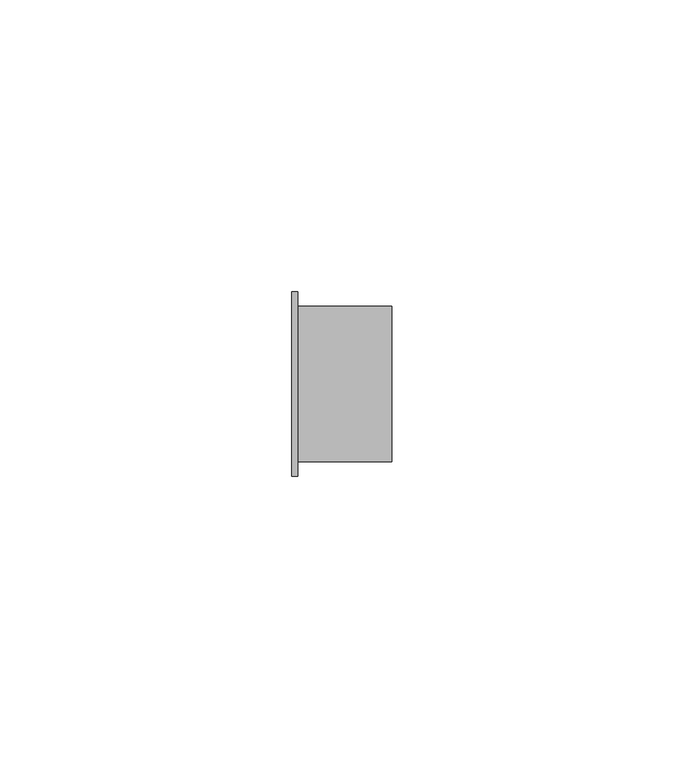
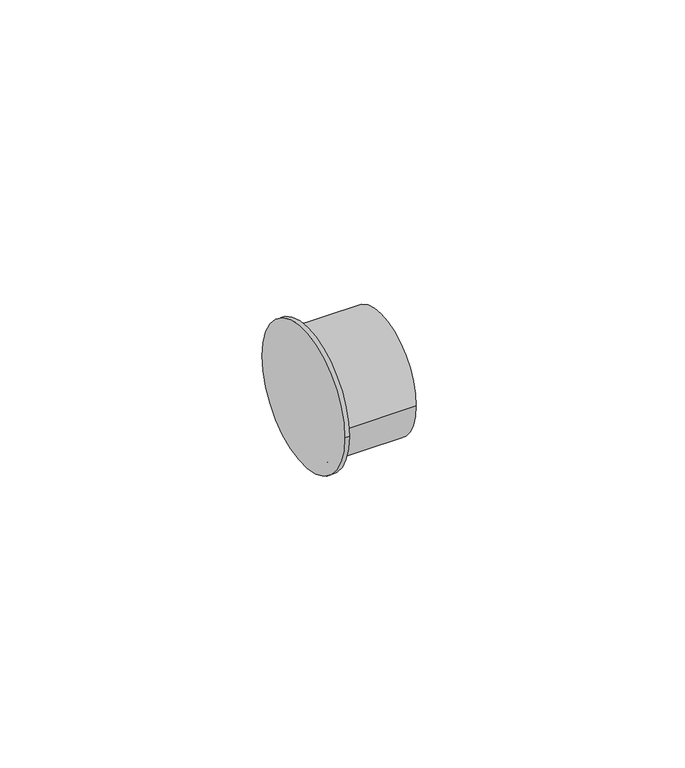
"""IFC4 building model written with IfcOpenShell, lengths in millimetres: pipe fitting geometry, Bucha de redução reta - Soldada - CU : Padrão."""

from ifc_helpers import new_model, si_unit, frame, origin, place, context, project, spatial, circle_curve, source, transform, mapped, element, save
from ifc_brep_helpers import plane_surface, cylinder_surface, advanced_brep


def pipe_fitting_639c0f04(model_context):
    return source(origin(), model_context, "Body", "AdvancedBrep", [
        advanced_brep(
        [(0.0, -15.775, 0.0), (0.0, 15.775, 0.0), (1.0, -15.775, 0.0), (1.0, 15.775, 0.0), (1.0, -13.354, 0.0), (1.0, 13.354, 0.0), (17.138, -13.354, 0.0), (17.138, 13.354, 0.0)],
        [
            (0, 1, circle_curve(frame((0.0, 0.0, 0.0), z_axis=(-1.0, 0.0, 0.0), x_axis=(0.0, 1.0, 0.0)), 15.775)),
            (1, 0, circle_curve(frame((0.0, 0.0, 0.0), z_axis=(-1.0, 0.0, 0.0), x_axis=(0.0, 1.0, 0.0)), 15.775)),
            (2, 3, circle_curve(frame((1.0, 0.0, 0.0), z_axis=(1.0, 0.0, 0.0), x_axis=(0.0, 1.0, 0.0)), 15.775)),
            (3, 2, circle_curve(frame((1.0, 0.0, 0.0), z_axis=(1.0, 0.0, 0.0), x_axis=(0.0, 1.0, 0.0)), 15.775)),
            (4, 5, circle_curve(frame((1.0, 0.0, 0.0), z_axis=(-1.0, 0.0, 0.0), x_axis=(0.0, 1.0, 0.0)), 13.354)),
            (5, 4, circle_curve(frame((1.0, 0.0, 0.0), z_axis=(-1.0, 0.0, 0.0), x_axis=(0.0, 1.0, 0.0)), 13.354)),
            (0, 2),
            (3, 1),
            (6, 7, circle_curve(frame((17.138, 0.0, 0.0), z_axis=(1.0, 0.0, 0.0), x_axis=(0.0, 1.0, 0.0)), 13.354)),
            (7, 6, circle_curve(frame((17.138, 0.0, 0.0), z_axis=(1.0, 0.0, 0.0), x_axis=(0.0, 1.0, 0.0)), 13.354)),
            (7, 5),
            (4, 6),
        ],
        [
            plane_surface(frame((0.0, 0.0, 0.0), z_axis=(-1.0, 0.0, 0.0), x_axis=(0.0, 0.0, 1.0))),
            plane_surface(frame((1.0, 0.0, 0.0), z_axis=(1.0, 0.0, 0.0), x_axis=(0.0, 0.0, 1.0))),
            cylinder_surface(frame((0.0, 0.0, 0.0), z_axis=(-1.0, 0.0, 0.0), x_axis=(0.0, 1.0, 0.0)), 15.775),
            plane_surface(frame((17.138, 0.0, 0.0), z_axis=(1.0, 0.0, 0.0), x_axis=(0.0, 0.0, 1.0))),
            cylinder_surface(frame((1.0, 0.0, 0.0), z_axis=(-1.0, 0.0, 0.0), x_axis=(0.0, 1.0, 0.0)), 13.354),
        ],
        [
            (0, [[1, 2]]),
            (1, [[3, 4], [5, 6]]),
            (2, [[-1, 7, -4, 8]]),
            (2, [[-2, -8, -3, -7]]),
            (3, [[9, 10]]),
            (4, [[-10, 11, -5, 12]]),
            (4, [[-9, -12, -6, -11]]),
        ],
    ),
    ])


if __name__ == "__main__":
    model = new_model("IFC4")
    model_context = context("Model", 3, world=origin())
    ifc_project = project(units=[si_unit("LENGTHUNIT", "METRE", prefix="MILLI")], contexts=[model_context])
    site = spatial("IfcSite", under=ifc_project)
    building = spatial("IfcBuilding", under=site)
    placement = place(None, origin())
    pipe_fitting_shape = pipe_fitting_639c0f04(model_context)
    element("IfcPipeFitting", 1, ObjectType="Bucha de redução reta - Soldada - CU : Padrão", at=placement, inside=building, context=model_context, shape_type="MappedRepresentation", body=[
        mapped(pipe_fitting_shape, transform((0.0, 0.0, 0.0), x_axis=(1.0, 0.0, 0.0), y_axis=(0.0, 1.0, 0.0), z_axis=(0.0, 0.0, 1.0))),
    ])
    save(model, "model.ifc")
